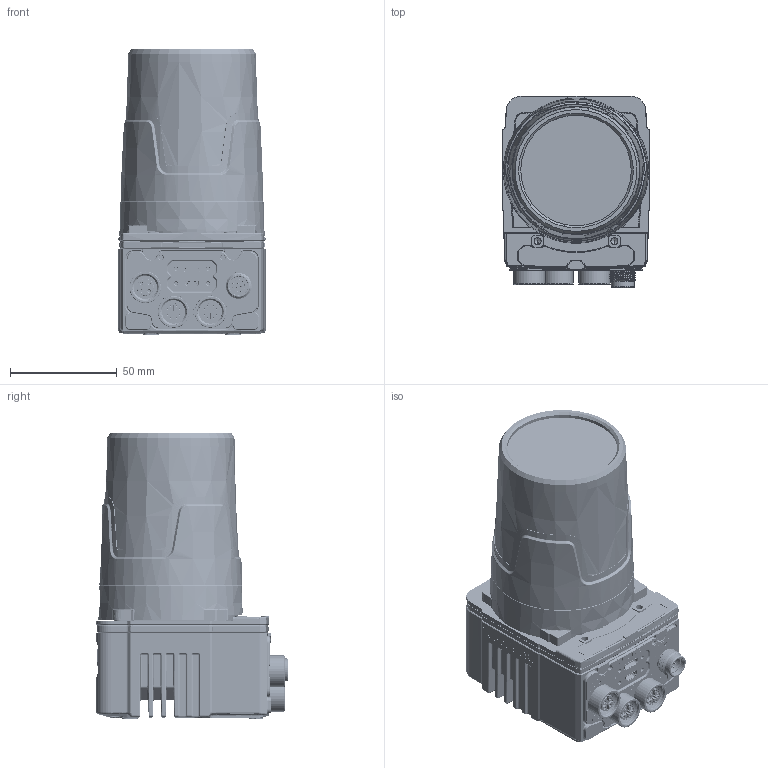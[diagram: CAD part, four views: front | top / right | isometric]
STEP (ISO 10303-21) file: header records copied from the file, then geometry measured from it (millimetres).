
FILE_DESCRIPTION (( 'STEP AP203' ), '1' );
FILE_NAME ('VAUX+Lens cover_60mm - COV-380-CMNT-75 (820-20780-003).STEP', '2023-02-28T15:32:41', ( 'cognoid' ), ( '' ), 'SwSTEP 2.0', 'SolidWorks 2021', '' );
FILE_SCHEMA (( 'CONFIG_CONTROL_DESIGN' ));
Products named in the file (1): VAUX+Lens cover_60mm - COV-380-CMNT-75 (820-20780-003)
Bounding box: 68.98 x 89.8 x 133.7 mm (x, y, z)
Volume: 509152.3 mm3; surface area: 59640 mm2
Topology: 1 solids, 1 shells, 5880 faces, 15331 edges, 9586 vertices
Faces by surface type: plane 2081, cylinder 1685, bspline 1110, cone 547, torus 357, sphere 100
Entity records: 218897 total; most frequent: CARTESIAN_POINT 82968, ORIENTED_EDGE 30494, DIRECTION 25939, EDGE_CURVE 15247, VERTEX_POINT 9587, AXIS2_PLACEMENT_3D 9225, LINE 7489, VECTOR 7489
